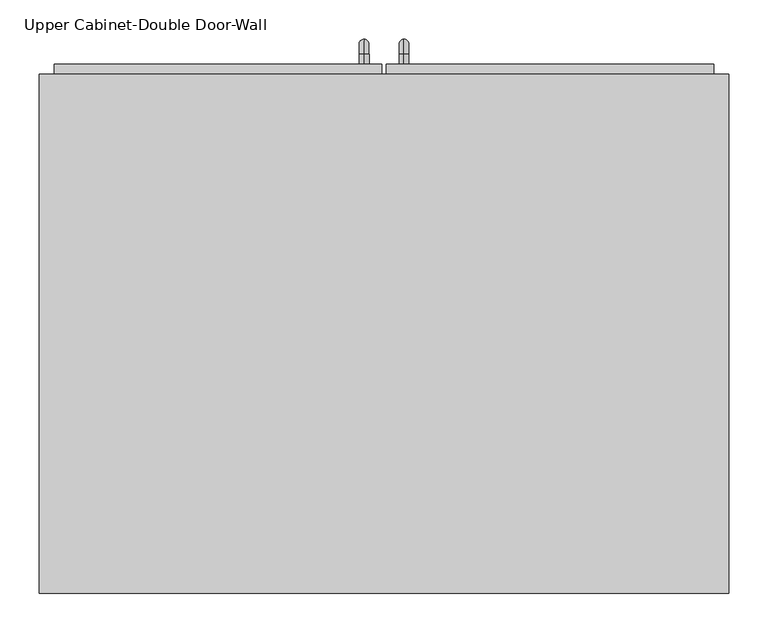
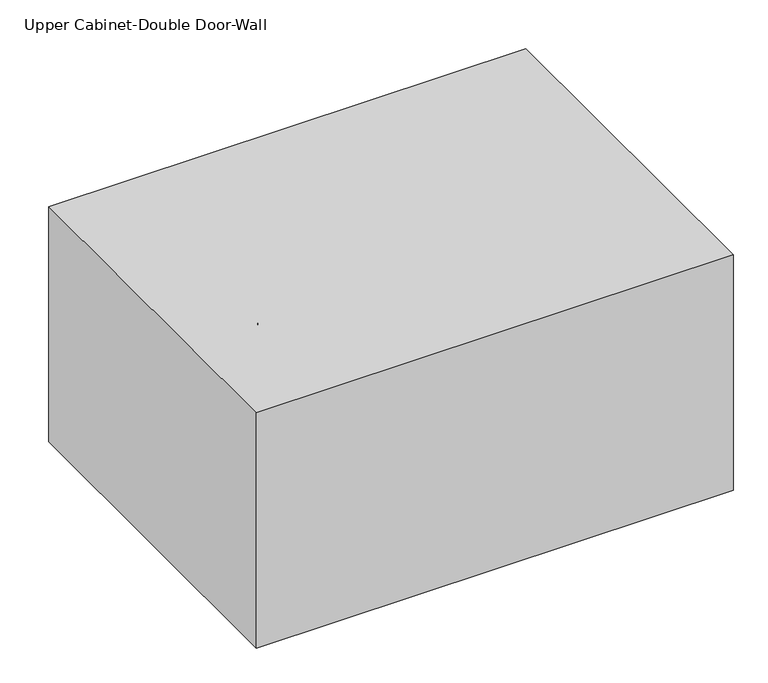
"""IFC4 building model written with IfcOpenShell, lengths in millimetres: furniture geometry."""

from ifc_helpers import new_model, si_unit, point, frame, origin, place, context, project, spatial, polyline, circle_curve, ellipse_curve, trimmed, outline, extrude, faceted_brep, source, transform, mapped, element, save
from ifc_brep_helpers import plane_surface, cylinder_surface, revolved_surface, advanced_brep


def upper_cabinet_double_door_wall_2916ba14(model_context):
    return source(origin(), model_context, "Body", "SolidModel", [
        faceted_brep([(-408.3788372, 57.15, 2133.6), (-408.3788372, 57.15, 1676.4), (467.9211628, 57.15, 1676.4), (467.9211628, 57.15, 2133.6), (-408.3788372, 717.55, 2133.6), (467.9211628, 717.55, 2133.6), (467.9211628, 717.55, 1676.4), (-408.3788372, 717.55, 1676.4), (-389.3288372, 717.55, 2114.55), (-389.3288372, 717.55, 1695.45), (448.8711628, 717.55, 1695.45), (448.8711628, 717.55, 2114.55), (448.8711628, 76.2, 2114.55), (-389.3288372, 76.2, 2114.55), (448.8711628, 76.2, 1695.45), (-389.3288372, 76.2, 1695.45)], [[[0, 1, 2, 3]], [[4, 5, 6, 7], [8, 9, 10, 11]], [[1, 0, 4, 7]], [[2, 1, 7, 6]], [[3, 2, 6, 5]], [[0, 3, 5, 4]], [[8, 11, 12, 13]], [[11, 10, 14, 12]], [[10, 9, 15, 14]], [[9, 8, 13, 15]], [[13, 12, 14, 15]]]),
        advanced_brep(
        [(55.1711628, 730.25, 1822.45), (55.1711628, 730.25, 1835.15), (55.1711628, 742.95, 1822.45), (55.1711628, 742.95, 1835.15), (55.1711628, 762.0, 1816.1), (55.1711628, 749.3, 1816.1), (55.1711628, 749.3, 1739.9), (55.1711628, 762.0, 1739.9), (55.1711628, 742.95, 1720.85), (55.1711628, 742.95, 1733.55), (55.1711628, 730.25, 1733.55), (55.1711628, 730.25, 1720.85)],
        [
            (0, 1, circle_curve(frame((55.1711628, 730.25, 1828.8), z_axis=(0.0, -1.0, 0.0), x_axis=(0.0, 0.0, -1.0)), 6.35)),
            (1, 0, circle_curve(frame((55.1711628, 730.25, 1828.8), z_axis=(0.0, -1.0, 0.0), x_axis=(0.0, 0.0, -1.0)), 6.35)),
            (0, 2),
            (2, 3, circle_curve(frame((55.1711628, 742.95, 1828.8), z_axis=(0.0, -1.0, 0.0), x_axis=(0.0, 0.0, -1.0)), 6.35)),
            (3, 1),
            (3, 2, circle_curve(frame((55.1711628, 742.95, 1828.8), z_axis=(0.0, -1.0, 0.0), x_axis=(0.0, 0.0, -1.0)), 6.35)),
            (4, 3, circle_curve(frame((55.1711628, 742.95, 1816.1), z_axis=(1.0, 0.0, 0.0), x_axis=(0.0, 0.0, 1.0)), 19.05)),
            (2, 5, circle_curve(frame((55.1711628, 742.95, 1816.1), z_axis=(-1.0, 0.0, 0.0), x_axis=(0.0, 0.0, 1.0)), 6.35)),
            (5, 4, circle_curve(frame((55.1711628, 755.65, 1816.1), z_axis=(0.0, 0.0, 1.0), x_axis=(0.0, -1.0, 0.0)), 6.35)),
            (4, 5, circle_curve(frame((55.1711628, 755.65, 1816.1), z_axis=(0.0, 0.0, 1.0), x_axis=(0.0, -1.0, 0.0)), 6.35)),
            (5, 6),
            (6, 7, circle_curve(frame((55.1711628, 755.65, 1739.9), z_axis=(0.0, 0.0, 1.0), x_axis=(0.0, -1.0, 0.0)), 6.35)),
            (7, 4),
            (7, 6, circle_curve(frame((55.1711628, 755.65, 1739.9), z_axis=(0.0, 0.0, 1.0), x_axis=(0.0, -1.0, 0.0)), 6.35)),
            (8, 7, circle_curve(frame((55.1711628, 742.95, 1739.9), z_axis=(1.0, 0.0, 0.0), x_axis=(0.0, 1.0, 0.0)), 19.05)),
            (6, 9, circle_curve(frame((55.1711628, 742.95, 1739.9), z_axis=(-1.0, 0.0, 0.0), x_axis=(0.0, 1.0, 0.0)), 6.35)),
            (9, 8, circle_curve(frame((55.1711628, 742.95, 1727.2), z_axis=(0.0, 1.0, 0.0), x_axis=(0.0, 0.0, 1.0)), 6.35)),
            (8, 9, circle_curve(frame((55.1711628, 742.95, 1727.2), z_axis=(0.0, 1.0, 0.0), x_axis=(0.0, 0.0, 1.0)), 6.35)),
            (10, 11, circle_curve(frame((55.1711628, 730.25, 1727.2), z_axis=(0.0, -1.0, 0.0), x_axis=(0.0, 0.0, 1.0)), 6.35)),
            (11, 10, circle_curve(frame((55.1711628, 730.25, 1727.2), z_axis=(0.0, -1.0, 0.0), x_axis=(0.0, 0.0, 1.0)), 6.35)),
            (9, 10),
            (11, 8),
        ],
        [
            plane_surface(frame((48.8211628, 730.25, 1828.8), z_axis=(0.0, -1.0, 0.0), x_axis=(0.0, 0.0, 1.0))),
            cylinder_surface(frame((55.1711628, 730.25, 1828.8), z_axis=(0.0, -1.0, 0.0), x_axis=(0.0, 0.0, -1.0)), 6.35),
            revolved_surface(trimmed(ellipse_curve(frame((55.1711628, 742.95, 1828.8), z_axis=(0.0, -1.0, 0.0), x_axis=(0.0, 0.0, -1.0)), 6.35, 6.35), [point((55.1711628, 742.95, 1822.45))], [point((55.1711628, 742.95, 1835.15))], True, "CARTESIAN"), (55.1711628, 742.95, 1816.1), (-1.0, 0.0, 0.0)),
            revolved_surface(trimmed(ellipse_curve(frame((55.1711628, 742.95, 1828.8), z_axis=(0.0, -1.0, 0.0), x_axis=(0.0, 0.0, -1.0)), 6.35, 6.35), [point((55.1711628, 742.95, 1835.15))], [point((55.1711628, 742.95, 1822.45))], True, "CARTESIAN"), (55.1711628, 742.95, 1816.1), (-1.0, 0.0, 0.0)),
            cylinder_surface(frame((55.1711628, 755.65, 1816.1), z_axis=(0.0, 0.0, 1.0), x_axis=(0.0, -1.0, 0.0)), 6.35),
            revolved_surface(trimmed(ellipse_curve(frame((55.1711628, 755.65, 1739.9), z_axis=(0.0, 0.0, 1.0), x_axis=(0.0, -1.0, 0.0)), 6.35, 6.35), [point((55.1711628, 749.3, 1739.9))], [point((55.1711628, 762.0, 1739.9))], True, "CARTESIAN"), (55.1711628, 742.95, 1739.9), (-1.0, 0.0, 0.0)),
            revolved_surface(trimmed(ellipse_curve(frame((55.1711628, 755.65, 1739.9), z_axis=(0.0, 0.0, 1.0), x_axis=(0.0, -1.0, 0.0)), 6.35, 6.35), [point((55.1711628, 762.0, 1739.9))], [point((55.1711628, 749.3, 1739.9))], True, "CARTESIAN"), (55.1711628, 742.95, 1739.9), (-1.0, 0.0, 0.0)),
            plane_surface(frame((48.8211628, 730.25, 1727.2), z_axis=(0.0, -1.0, 0.0), x_axis=(0.0, 0.0, -1.0))),
            cylinder_surface(frame((55.1711628, 742.95, 1727.2), z_axis=(0.0, 1.0, 0.0), x_axis=(0.0, 0.0, 1.0)), 6.35),
        ],
        [
            (0, [[1, 2]]),
            (1, [[-1, 3, 4, 5]]),
            (1, [[-2, -5, 6, -3]]),
            (2, [[7, -4, 8, 9]]),
            (3, [[-8, -6, -7, 10]]),
            (4, [[-9, 11, 12, 13]]),
            (4, [[-10, -13, 14, -11]]),
            (5, [[15, -12, 16, 17]]),
            (6, [[-16, -14, -15, 18]]),
            (7, [[19, 20]]),
            (8, [[-17, 21, -20, 22]]),
            (8, [[-18, -22, -19, -21]]),
        ],
    ),
        advanced_brep(
        [(4.3711628, 730.25, 1822.45), (4.3711628, 730.25, 1835.15), (4.3711628, 742.95, 1822.45), (4.3711628, 742.95, 1835.15), (4.3711628, 762.0, 1816.1), (4.3711628, 749.3, 1816.1), (4.3711628, 749.3, 1739.9), (4.3711628, 762.0, 1739.9), (4.3711628, 742.95, 1720.85), (4.3711628, 742.95, 1733.55), (4.3711628, 730.25, 1733.55), (4.3711628, 730.25, 1720.85)],
        [
            (0, 1, circle_curve(frame((4.3711628, 730.25, 1828.8), z_axis=(0.0, -1.0, 0.0), x_axis=(0.0, 0.0, 1.0)), 6.35)),
            (1, 0, circle_curve(frame((4.3711628, 730.25, 1828.8), z_axis=(0.0, -1.0, 0.0), x_axis=(0.0, 0.0, 1.0)), 6.35)),
            (0, 2),
            (2, 3, circle_curve(frame((4.3711628, 742.95, 1828.8), z_axis=(0.0, -1.0, 0.0), x_axis=(0.0, 0.0, 1.0)), 6.35)),
            (3, 1),
            (3, 2, circle_curve(frame((4.3711628, 742.95, 1828.8), z_axis=(0.0, -1.0, 0.0), x_axis=(0.0, 0.0, 1.0)), 6.35)),
            (4, 3, circle_curve(frame((4.3711628, 742.95, 1816.1), z_axis=(1.0, 0.0, 0.0), x_axis=(0.0, 0.0, 1.0)), 19.05)),
            (2, 5, circle_curve(frame((4.3711628, 742.95, 1816.1), z_axis=(-1.0, 0.0, 0.0), x_axis=(0.0, 0.0, 1.0)), 6.35)),
            (5, 4, circle_curve(frame((4.3711628, 755.65, 1816.1), z_axis=(0.0, 0.0, 1.0), x_axis=(0.0, 1.0, 0.0)), 6.35)),
            (4, 5, circle_curve(frame((4.3711628, 755.65, 1816.1), z_axis=(0.0, 0.0, 1.0), x_axis=(0.0, 1.0, 0.0)), 6.35)),
            (5, 6),
            (6, 7, circle_curve(frame((4.3711628, 755.65, 1739.9), z_axis=(0.0, 0.0, 1.0), x_axis=(0.0, 1.0, 0.0)), 6.35)),
            (7, 4),
            (7, 6, circle_curve(frame((4.3711628, 755.65, 1739.9), z_axis=(0.0, 0.0, 1.0), x_axis=(0.0, 1.0, 0.0)), 6.35)),
            (8, 7, circle_curve(frame((4.3711628, 742.95, 1739.9), z_axis=(1.0, 0.0, 0.0), x_axis=(0.0, 1.0, 0.0)), 19.05)),
            (6, 9, circle_curve(frame((4.3711628, 742.95, 1739.9), z_axis=(-1.0, 0.0, 0.0), x_axis=(0.0, 1.0, 0.0)), 6.35)),
            (9, 8, circle_curve(frame((4.3711628, 742.95, 1727.2), z_axis=(0.0, 1.0, 0.0), x_axis=(0.0, 0.0, -1.0)), 6.35)),
            (8, 9, circle_curve(frame((4.3711628, 742.95, 1727.2), z_axis=(0.0, 1.0, 0.0), x_axis=(0.0, 0.0, -1.0)), 6.35)),
            (10, 11, circle_curve(frame((4.3711628, 730.25, 1727.2), z_axis=(0.0, -1.0, 0.0), x_axis=(0.0, 0.0, -1.0)), 6.35)),
            (11, 10, circle_curve(frame((4.3711628, 730.25, 1727.2), z_axis=(0.0, -1.0, 0.0), x_axis=(0.0, 0.0, -1.0)), 6.35)),
            (9, 10),
            (11, 8),
        ],
        [
            plane_surface(frame((-1.9788372, 730.25, 1828.8), z_axis=(0.0, -1.0, 0.0), x_axis=(0.0, 0.0, 1.0))),
            cylinder_surface(frame((4.3711628, 730.25, 1828.8), z_axis=(0.0, -1.0, 0.0), x_axis=(0.0, 0.0, 1.0)), 6.35),
            revolved_surface(trimmed(ellipse_curve(frame((4.3711628, 742.95, 1828.8), z_axis=(0.0, -1.0, 0.0), x_axis=(0.0, 0.0, 1.0)), 6.35, 6.35), [point((4.3711628, 742.95, 1822.45))], [point((4.3711628, 742.95, 1835.15))], True, "CARTESIAN"), (4.3711628, 742.95, 1816.1), (-1.0, 0.0, 0.0)),
            revolved_surface(trimmed(ellipse_curve(frame((4.3711628, 742.95, 1828.8), z_axis=(0.0, -1.0, 0.0), x_axis=(0.0, 0.0, 1.0)), 6.35, 6.35), [point((4.3711628, 742.95, 1835.15))], [point((4.3711628, 742.95, 1822.45))], True, "CARTESIAN"), (4.3711628, 742.95, 1816.1), (-1.0, 0.0, 0.0)),
            cylinder_surface(frame((4.3711628, 755.65, 1816.1), z_axis=(0.0, 0.0, 1.0), x_axis=(0.0, 1.0, 0.0)), 6.35),
            revolved_surface(trimmed(ellipse_curve(frame((4.3711628, 755.65, 1739.9), z_axis=(0.0, 0.0, 1.0), x_axis=(0.0, 1.0, 0.0)), 6.35, 6.35), [point((4.3711628, 749.3, 1739.9))], [point((4.3711628, 762.0, 1739.9))], True, "CARTESIAN"), (4.3711628, 742.95, 1739.9), (-1.0, 0.0, 0.0)),
            revolved_surface(trimmed(ellipse_curve(frame((4.3711628, 755.65, 1739.9), z_axis=(0.0, 0.0, 1.0), x_axis=(0.0, 1.0, 0.0)), 6.35, 6.35), [point((4.3711628, 762.0, 1739.9))], [point((4.3711628, 749.3, 1739.9))], True, "CARTESIAN"), (4.3711628, 742.95, 1739.9), (-1.0, 0.0, 0.0)),
            plane_surface(frame((-1.9788372, 730.25, 1727.2), z_axis=(0.0, -1.0, 0.0), x_axis=(0.0, 0.0, -1.0))),
            cylinder_surface(frame((4.3711628, 742.95, 1727.2), z_axis=(0.0, 1.0, 0.0), x_axis=(0.0, 0.0, -1.0)), 6.35),
        ],
        [
            (0, [[1, 2]]),
            (1, [[-1, 3, 4, 5]]),
            (1, [[-2, -5, 6, -3]]),
            (2, [[7, -4, 8, 9]]),
            (3, [[-8, -6, -7, 10]]),
            (4, [[-9, 11, 12, 13]]),
            (4, [[-10, -13, 14, -11]]),
            (5, [[15, -12, 16, 17]]),
            (6, [[-16, -14, -15, 18]]),
            (7, [[19, 20]]),
            (8, [[-17, 21, -20, 22]]),
            (8, [[-18, -22, -19, -21]]),
        ],
    ),
        extrude(outline(polyline([(32.9461628, 730.25), (448.8711628, 730.25), (448.8711628, 698.5), (32.9461628, 698.5), (32.9461628, 730.25)])), frame((0.0, 0.0, 1695.45), z_axis=(0.0, 0.0, 1.0), x_axis=(1.0, 0.0, 0.0)), (0.0, 0.0, 1.0), 419.1),
        extrude(outline(polyline([(-389.3288372, 730.25), (26.5961628, 730.25), (26.5961628, 698.5), (-389.3288372, 698.5), (-389.3288372, 730.25)])), frame((0.0, 0.0, 1695.45), z_axis=(0.0, 0.0, 1.0), x_axis=(1.0, 0.0, 0.0)), (0.0, 0.0, 1.0), 419.1),
    ])


if __name__ == "__main__":
    model = new_model("IFC4")
    model_context = context("Model", 3, world=origin())
    ifc_project = project(units=[si_unit("LENGTHUNIT", "METRE", prefix="MILLI")], contexts=[model_context])
    site = spatial("IfcSite", under=ifc_project)
    building = spatial("IfcBuilding", under=site)
    placement = place(None, origin())
    upper_cabinet_double_door_wall_shape = upper_cabinet_double_door_wall_2916ba14(model_context)
    element("IfcFurniture", 1, ObjectType="Upper Cabinet-Double Door-Wall : 34 1/2\" Thiccc", at=placement, inside=building, context=model_context, shape_type="MappedRepresentation", body=[
        mapped(upper_cabinet_double_door_wall_shape, transform((0.0, 0.0, 0.0), x_axis=(1.0, 0.0, 0.0), y_axis=(0.0, 1.0, 0.0), z_axis=(0.0, 0.0, 1.0))),
    ])
    save(model, "model.ifc")
